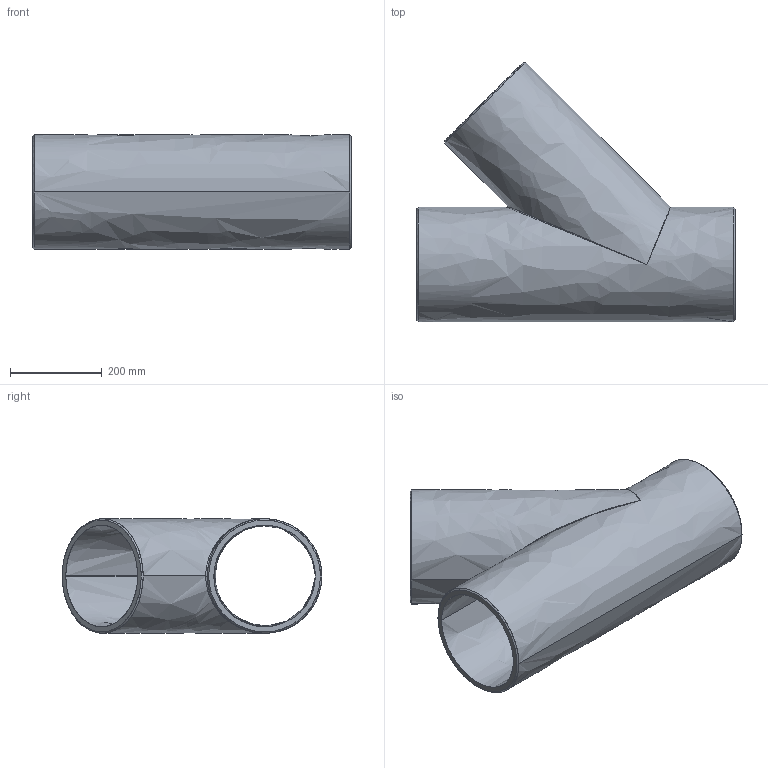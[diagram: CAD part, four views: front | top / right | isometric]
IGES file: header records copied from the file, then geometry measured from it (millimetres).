
Start section:  PTC IGES file: ats45_d250.igs
Global section: file name: ats45_d250.igs; native system: Pro/ENGINEER by Parametric Technology Corporation; preprocessor: 2011490; author: mtunjic; organization: Unknown; date: 20130724.093533; units: millimetre
Bounding box: 696 x 566.94 x 250 mm (x, y, z)
Surface area: 1597186.4 mm2 (no closed solid volume)
Topology: 0 solids, 0 shells, 22 faces, 106 edges, 106 vertices
Faces by surface type: bspline 22
